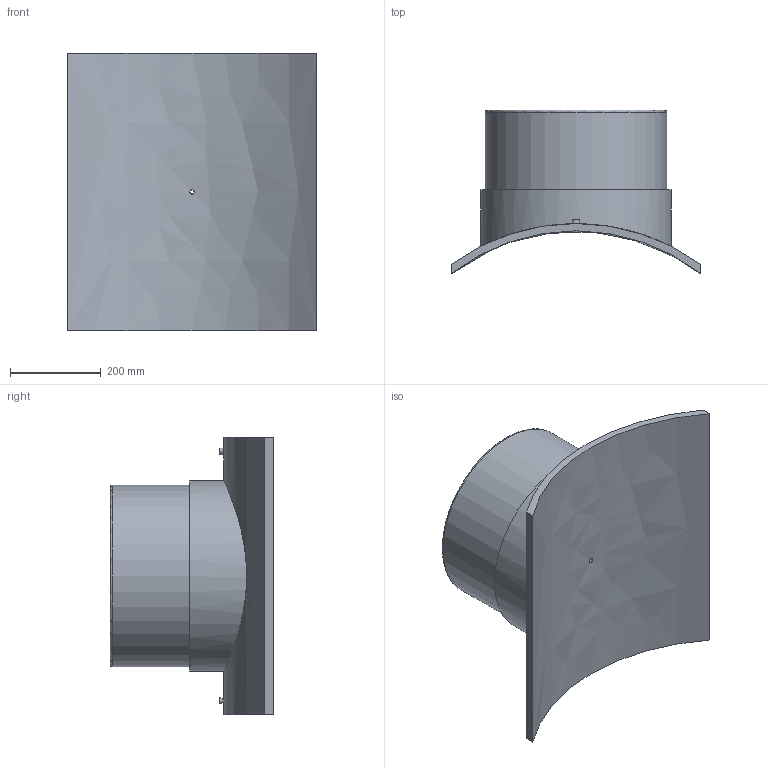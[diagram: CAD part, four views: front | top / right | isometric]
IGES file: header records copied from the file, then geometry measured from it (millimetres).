
Global section: file name: 495803900400T.ipt; native system: Autodesk Inventor 2019; preprocessor: unknown; author: KIM; date: 20210225.095250; units: millimetre
Bounding box: 550 x 359.8 x 610 mm (x, y, z)
Volume: 19159221.1 mm3; surface area: 1385744.2 mm2
Topology: 2 solids, 2 shells, 29 faces, 54 edges, 38 vertices
Faces by surface type: plane 13, revolution 7, cylinder 7, cone 2
Full cylindrical faces by diameter (mm): 4 x2, 16 x1, 400 x1, 420 x1
